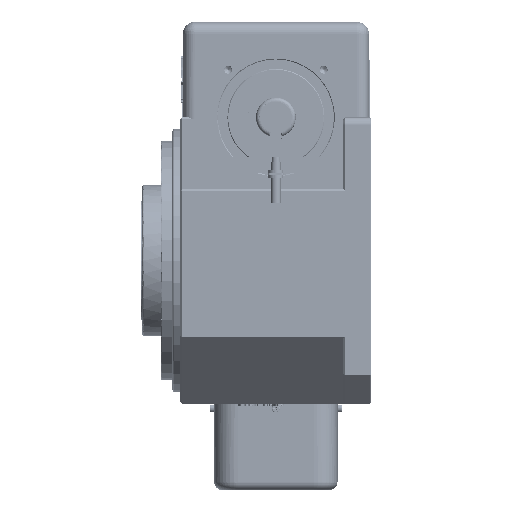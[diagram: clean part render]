
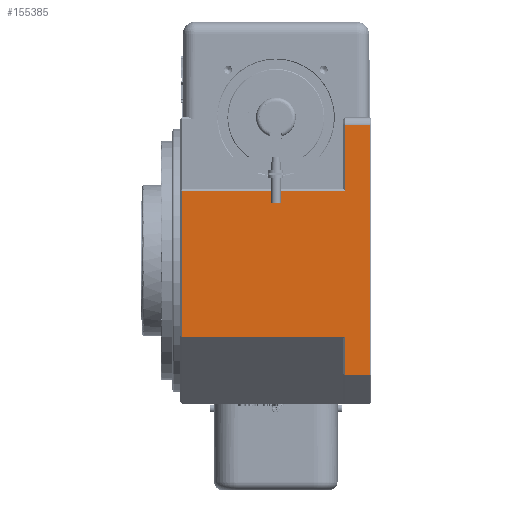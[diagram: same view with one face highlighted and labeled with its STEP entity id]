
A CAD part, left-side view. The second image highlights one B-rep face of the part: STEP entity #155385.
In plain terms, the highlighted planar face has unit normal (-1, 0, 0).
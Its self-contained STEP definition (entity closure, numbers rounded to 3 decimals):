
#544 = ORIENTED_EDGE ( 'NONE', *, *, #36539, .F. ) ;
#10354 = CARTESIAN_POINT ( 'NONE',  ( -180., 33., 170. ) ) ;
#12712 = VECTOR ( 'NONE', #118804, 1000. ) ;
#14272 = VECTOR ( 'NONE', #104905, 1000. ) ;
#16165 = CARTESIAN_POINT ( 'NONE',  ( -180., 33., 170. ) ) ;
#16494 = CARTESIAN_POINT ( 'NONE',  ( -180., 238., 170. ) ) ;
#21133 = AXIS2_PLACEMENT_3D ( 'NONE', #198266, #147540, #45213 ) ;
#27516 = DIRECTION ( 'NONE',  ( 0., 0., 1. ) ) ;
#30708 = LINE ( 'NONE', #111819, #70686 ) ;
#33405 = VERTEX_POINT ( 'NONE', #135393 ) ;
#36539 = EDGE_CURVE ( 'NONE', #61367, #33405, #30708, .T. ) ;
#39931 = EDGE_LOOP ( 'NONE', ( #209491, #205983, #130027, #157911, #544, #86142, #58463, #97845 ) ) ;
#45213 = DIRECTION ( 'NONE',  ( 0., 0., -1. ) ) ;
#49744 = DIRECTION ( 'NONE',  ( 0., 1., 0. ) ) ;
#50504 = DIRECTION ( 'NONE',  ( 0., 0., 1. ) ) ;
#54280 = LINE ( 'NONE', #207208, #14272 ) ;
#57546 = EDGE_CURVE ( 'NONE', #88366, #97075, #140298, .T. ) ;
#58070 = LINE ( 'NONE', #16494, #12712 ) ;
#58463 = ORIENTED_EDGE ( 'NONE', *, *, #166458, .F. ) ;
#59862 = VECTOR ( 'NONE', #49744, 1000. ) ;
#61367 = VERTEX_POINT ( 'NONE', #146970 ) ;
#61563 = PLANE ( 'NONE',  #21133 ) ;
#70686 = VECTOR ( 'NONE', #214164, 1000. ) ;
#77067 = DIRECTION ( 'NONE',  ( 0., -1., 0. ) ) ;
#86142 = ORIENTED_EDGE ( 'NONE', *, *, #190030, .F. ) ;
#88366 = VERTEX_POINT ( 'NONE', #160206 ) ;
#94847 = VECTOR ( 'NONE', #77067, 1000. ) ;
#97075 = VERTEX_POINT ( 'NONE', #159378 ) ;
#97845 = ORIENTED_EDGE ( 'NONE', *, *, #117507, .F. ) ;
#99021 = VERTEX_POINT ( 'NONE', #99073 ) ;
#99073 = CARTESIAN_POINT ( 'NONE',  ( -180., 2., 170. ) ) ;
#104905 = DIRECTION ( 'NONE',  ( 0., 0., -1. ) ) ;
#109568 = CARTESIAN_POINT ( 'NONE',  ( -180., 238., -96. ) ) ;
#110698 = CARTESIAN_POINT ( 'NONE',  ( -180., 240., -144. ) ) ;
#111819 = CARTESIAN_POINT ( 'NONE',  ( -180., 240., 88. ) ) ;
#117507 = EDGE_CURVE ( 'NONE', #88366, #134736, #154533, .T. ) ;
#118804 = DIRECTION ( 'NONE',  ( 0., 0., 1. ) ) ;
#119620 = VERTEX_POINT ( 'NONE', #143632 ) ;
#121567 = FACE_OUTER_BOUND ( 'NONE', #39931, .T. ) ;
#126012 = LINE ( 'NONE', #16165, #166055 ) ;
#129341 = DIRECTION ( 'NONE',  ( 0., -1., 0. ) ) ;
#129771 = CARTESIAN_POINT ( 'NONE',  ( -180., 33., -96. ) ) ;
#130027 = ORIENTED_EDGE ( 'NONE', *, *, #188795, .F. ) ;
#133357 = LINE ( 'NONE', #214458, #178765 ) ;
#134736 = VERTEX_POINT ( 'NONE', #129771 ) ;
#135393 = CARTESIAN_POINT ( 'NONE',  ( -180., 33., 88. ) ) ;
#140298 = LINE ( 'NONE', #110698, #94847 ) ;
#143632 = CARTESIAN_POINT ( 'NONE',  ( -180., 33., 170. ) ) ;
#146970 = CARTESIAN_POINT ( 'NONE',  ( -180., 238., 88. ) ) ;
#147540 = DIRECTION ( 'NONE',  ( 1., 0., 0. ) ) ;
#150781 = LINE ( 'NONE', #169260, #59862 ) ;
#154533 = LINE ( 'NONE', #10354, #159849 ) ;
#155385 = ADVANCED_FACE ( 'NONE', ( #121567 ), #61563, .F. ) ;
#157911 = ORIENTED_EDGE ( 'NONE', *, *, #180436, .F. ) ;
#159378 = CARTESIAN_POINT ( 'NONE',  ( -180., 2., -144. ) ) ;
#159849 = VECTOR ( 'NONE', #27516, 1000. ) ;
#160206 = CARTESIAN_POINT ( 'NONE',  ( -180., 33., -144. ) ) ;
#166055 = VECTOR ( 'NONE', #50504, 1000. ) ;
#166458 = EDGE_CURVE ( 'NONE', #134736, #187454, #150781, .T. ) ;
#169260 = CARTESIAN_POINT ( 'NONE',  ( -180., 240., -96. ) ) ;
#178765 = VECTOR ( 'NONE', #129341, 1000. ) ;
#180436 = EDGE_CURVE ( 'NONE', #33405, #119620, #126012, .T. ) ;
#187454 = VERTEX_POINT ( 'NONE', #109568 ) ;
#188795 = EDGE_CURVE ( 'NONE', #119620, #99021, #133357, .T. ) ;
#190030 = EDGE_CURVE ( 'NONE', #187454, #61367, #58070, .T. ) ;
#195653 = EDGE_CURVE ( 'NONE', #99021, #97075, #54280, .T. ) ;
#198266 = CARTESIAN_POINT ( 'NONE',  ( -180., 240., 170. ) ) ;
#205983 = ORIENTED_EDGE ( 'NONE', *, *, #195653, .F. ) ;
#207208 = CARTESIAN_POINT ( 'NONE',  ( -180., 2., 170. ) ) ;
#209491 = ORIENTED_EDGE ( 'NONE', *, *, #57546, .T. ) ;
#214164 = DIRECTION ( 'NONE',  ( 0., -1., 0. ) ) ;
#214458 = CARTESIAN_POINT ( 'NONE',  ( -180., 240., 170. ) ) ;
